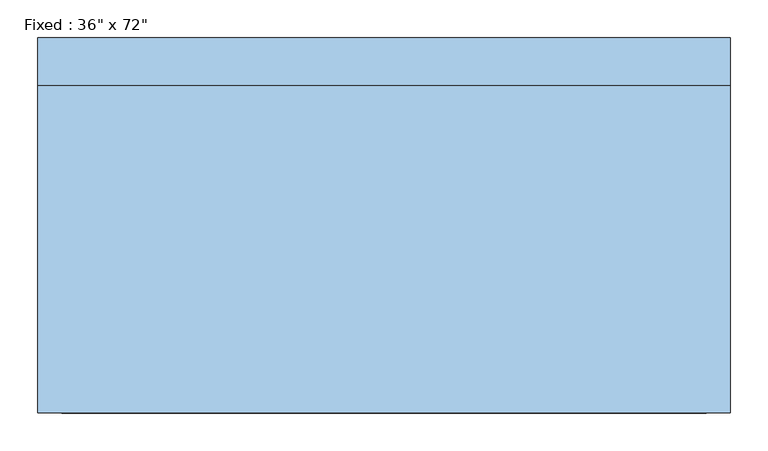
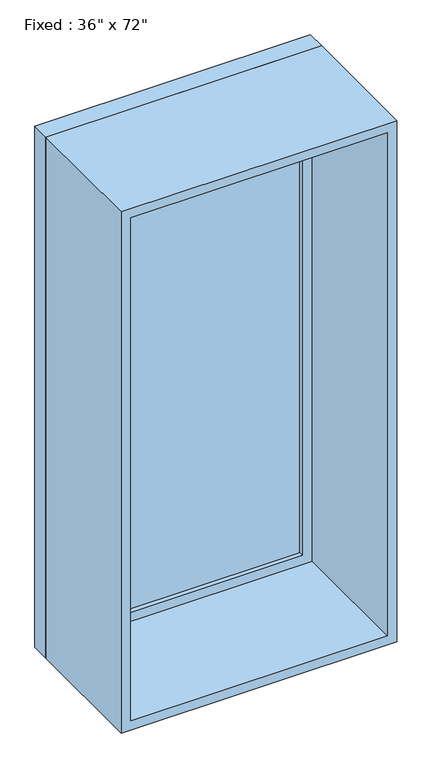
"""IFC4 building model written with IfcOpenShell, lengths in millimetres: window geometry."""

import ifcopenshell
import ifcopenshell.guid

model = None  # the IFC model being written
_history = None  # IfcOwnerHistory: only IFC2X3 demands one
_inside = {}  # id of a spatial element -> (the spatial element, [elements in it])
_under = {}  # id of a project, library or spatial element -> (it, [spatial elements below it])
_declared = {}  # id of a project -> (the project, [libraries it declares])
_typed = {}  # id of a type object -> (the type object, [elements of that type])
_made_of = {}  # id of a material, layer set ... -> (it, [elements and type objects made of it])


def new_model(schema):
    """Start an empty IFC model of exactly this schema.

    Asked for "IFC4X3", IfcOpenShell would pick the latest addendum, in which some entities
    have other attributes; the version numbers below select the first issue.
    IFC2X3 requires an IfcOwnerHistory on every rooted entity: one is made here for all.
    """
    global model, _history
    if schema == "IFC4X3":
        model = ifcopenshell.file(schema_version=(4, 3, 0, 0))
    else:
        model = ifcopenshell.file(schema=schema)
    _inside.clear()
    _under.clear()
    _declared.clear()
    _typed.clear()
    _made_of.clear()
    _history = None
    if model.schema == "IFC2X3":
        org = make("IfcOrganization", Name="unknown")
        user = make(
            "IfcPersonAndOrganization",
            ThePerson=make("IfcPerson", FamilyName="unknown"),
            TheOrganization=org,
        )
        app = make(
            "IfcApplication",
            ApplicationDeveloper=org,
            Version="unknown",
            ApplicationFullName="unknown",
            ApplicationIdentifier="unknown",
        )
        _history = make(
            "IfcOwnerHistory",
            OwningUser=user,
            OwningApplication=app,
            ChangeAction="ADDED",
            CreationDate=0,
        )
    return model


def make(cls, **values):
    """One entity of the class cls with the attributes given. An attribute that is None is left unset."""
    return model.create_entity(
        cls, **{name: value for name, value in values.items() if value is not None}
    )


def rooted(cls, **values):
    """An entity with a GlobalId (a new one), such as an element, a storey or a relation."""
    return make(cls, GlobalId=ifcopenshell.guid.new(), OwnerHistory=_history, **values)


def si_unit(unit_type, name, prefix=None):
    """IfcSIUnit, for example si_unit("LENGTHUNIT", "METRE", prefix="MILLI")."""
    return make("IfcSIUnit", UnitType=unit_type, Prefix=prefix, Name=name)


def assignment(units):
    """IfcUnitAssignment: the units of a project."""
    return None if units is None else make("IfcUnitAssignment", Units=units)


def point(xyz):
    """IfcCartesianPoint."""
    return None if xyz is None else make("IfcCartesianPoint", Coordinates=xyz)


def direction(xyz):
    """IfcDirection."""
    return None if xyz is None else make("IfcDirection", DirectionRatios=xyz)


def frame(location, z_axis=None, x_axis=None):
    """IfcAxis2Placement3D, a coordinate frame: its origin and axes. An axis left out is left unset."""
    return make(
        "IfcAxis2Placement3D",
        Location=point(location),
        Axis=direction(z_axis),
        RefDirection=direction(x_axis),
    )


def origin():
    """The frame at (0, 0, 0) with its axes left unset."""
    return frame((0.0, 0.0, 0.0))


def place(relative_to, where):
    """IfcLocalPlacement: puts the frame where relative to a parent placement (None: the world)."""
    return make(
        "IfcLocalPlacement", PlacementRelTo=relative_to, RelativePlacement=where
    )


def context(
    kind, dimensions, precision=None, world=None, true_north=None, identifier=None
):
    """IfcGeometricRepresentationContext, for example the 3D "Model" context."""
    return make(
        "IfcGeometricRepresentationContext",
        ContextIdentifier=identifier,
        ContextType=kind,
        CoordinateSpaceDimension=dimensions,
        Precision=precision,
        WorldCoordinateSystem=world,
        TrueNorth=true_north,
    )


def project(units=None, contexts=None):
    """IfcProject with its units and contexts."""
    return rooted(
        "IfcProject",
        Name="project",
        RepresentationContexts=contexts,
        UnitsInContext=assignment(units),
    )


def spatial(cls, under=None, at=None, **own):
    """A site, building, storey or space (cls), placed at a placement, below another one or the project."""
    s = rooted(cls, ObjectPlacement=at, **own)
    if under is not None:
        _under.setdefault(under.id(), (under, []))[1].append(s)
    return s


def polyline(points):
    """IfcPolyline through the points."""
    return make("IfcPolyline", Points=[point(p) for p in points])


def outline(outer, holes=None, kind="AREA"):
    """IfcArbitraryClosedProfileDef: a profile drawn as a closed curve; with holes, ...WithVoids."""
    if holes is None:
        return make("IfcArbitraryClosedProfileDef", ProfileType=kind, OuterCurve=outer)
    return make(
        "IfcArbitraryProfileDefWithVoids",
        ProfileType=kind,
        OuterCurve=outer,
        InnerCurves=holes,
    )


def extrude(swept, where, along, depth):
    """IfcExtrudedAreaSolid: the profile swept, set in the frame where, extruded along a direction by depth."""
    return make(
        "IfcExtrudedAreaSolid",
        SweptArea=swept,
        Position=where,
        ExtrudedDirection=direction(along),
        Depth=depth,
    )


def shape(context_of_items, identifier, shape_type, items):
    """IfcShapeRepresentation: the items that make up one representation, for example the "Body"."""
    return make(
        "IfcShapeRepresentation",
        ContextOfItems=context_of_items,
        RepresentationIdentifier=identifier,
        RepresentationType=shape_type,
        Items=items,
    )


def source(mapping_origin, context_of_items, identifier, shape_type, items):
    """IfcRepresentationMap: a shape defined once, which mapped items show again and again."""
    return make(
        "IfcRepresentationMap",
        MappingOrigin=mapping_origin,
        MappedRepresentation=shape(context_of_items, identifier, shape_type, items),
    )


def transform(
    local_origin,
    x_axis=None,
    y_axis=None,
    z_axis=None,
    scale=None,
    scale2=None,
    scale3=None,
    uniform=True,
):
    """IfcCartesianTransformationOperator3D, or its non-uniform kind. x_axis, y_axis, z_axis: its Axis1, 2, 3."""
    if uniform:
        return make(
            "IfcCartesianTransformationOperator3D",
            Axis1=direction(x_axis),
            Axis2=direction(y_axis),
            LocalOrigin=point(local_origin),
            Scale=scale,
            Axis3=direction(z_axis),
        )
    return make(
        "IfcCartesianTransformationOperator3DnonUniform",
        Axis1=direction(x_axis),
        Axis2=direction(y_axis),
        LocalOrigin=point(local_origin),
        Scale=scale,
        Axis3=direction(z_axis),
        Scale2=scale2,
        Scale3=scale3,
    )


def mapped(mapping_source, mapping_target):
    """IfcMappedItem: shows the shape of a source again, moved by a transform."""
    return make(
        "IfcMappedItem", MappingSource=mapping_source, MappingTarget=mapping_target
    )


def made_of(thing, what):
    """Note that an element or type object is made of a material, layer set ...; save() writes the relation."""
    if what is not None:
        _made_of.setdefault(what.id(), (what, []))[1].append(thing)
    return thing


def element(
    cls,
    number,
    at=None,
    inside=None,
    cuts=None,
    type_object=None,
    material=None,
    context=None,
    identifier="Body",
    shape_type=None,
    held_by="IfcProductDefinitionShape",
    body=None,
    shapes=None,
    **own,
):
    """One element of the class cls, such as IfcWall. Its Tag is "e" and its number.

    at: its placement. inside: the storey or other place that contains it. cuts: it is an
    opening in that element (IfcRelVoidsElement). A single representation is given by context,
    identifier, shape_type and body (its items); several are given by shapes. held_by: the class
    of the entity that holds the representations. save() writes the other relations.
    """
    e = rooted(cls, Tag="e%d" % number, ObjectPlacement=at, **own)
    if body is not None:
        shapes = [shape(context, identifier, shape_type, body)]
    if shapes is not None:
        e.Representation = make(held_by, Representations=shapes)
    if inside is not None:
        _inside.setdefault(inside.id(), (inside, []))[1].append(e)
    if cuts is not None:
        rooted(
            "IfcRelVoidsElement", RelatingBuildingElement=cuts, RelatedOpeningElement=e
        )
    if type_object is not None:
        _typed.setdefault(type_object.id(), (type_object, []))[1].append(e)
    return made_of(e, material)


def aggregate(whole, parts):
    """IfcRelAggregates: a whole, such as a stair, and the parts it consists of."""
    return rooted("IfcRelAggregates", RelatingObject=whole, RelatedObjects=parts)


def save(model, path):
    """Write the relations noted so far, then the file.

    IfcRelAggregates (storeys below a building ...), IfcRelContainedInSpatialStructure (elements
    in a storey), IfcRelDefinesByType, IfcRelAssociatesMaterial and IfcRelDeclares: one each for
    every whole, place, type object, material and project.
    """
    for whole, parts in _under.values():
        aggregate(whole, parts)
    for where, things in _inside.values():
        rooted(
            "IfcRelContainedInSpatialStructure",
            RelatedElements=things,
            RelatingStructure=where,
        )
    for kind, things in _typed.values():
        rooted("IfcRelDefinesByType", RelatedObjects=things, RelatingType=kind)
    for what, things in _made_of.values():
        rooted("IfcRelAssociatesMaterial", RelatedObjects=things, RelatingMaterial=what)
    for by, libraries in _declared.values():
        rooted("IfcRelDeclares", RelatingContext=by, RelatedDefinitions=libraries)
    model.write(path)


def window_ebccf9a6(model_context):
    return source(origin(), model_context, "Body", "SweptSolid", [
        extrude(outline(polyline([(355.6, 200.025), (-431.8, 200.025), (-431.8, 212.725), (355.6, 212.725), (355.6, 200.025)])), frame((0.0, 0.0, 368.3), z_axis=(0.0, 0.0, 1.0), x_axis=(1.0, 0.0, 0.0)), (0.0, 0.0, 1.0), 1701.8),
        extrude(outline(polyline([(2114.55, -476.25), (323.85, -476.25), (323.85, 400.05), (2114.55, 400.05), (2114.55, -476.25)]), holes=[polyline([(2070.1, -431.8), (2070.1, 355.6), (368.3, 355.6), (368.3, -431.8), (2070.1, -431.8)])]), frame((0.0, 184.15, 0.0), z_axis=(0.0, 1.0, 0.0), x_axis=(0.0, 0.0, 1.0)), (0.0, 0.0, 1.0), 44.45),
        extrude(outline(polyline([(2133.6, -495.3), (304.8, -495.3), (304.8, 419.1), (2133.6, 419.1), (2133.6, -495.3)]), holes=[polyline([(2101.85, -463.55), (2101.85, 387.35), (336.55, 387.35), (336.55, -463.55), (2101.85, -463.55)])]), frame((0.0, -247.65, 0.0), z_axis=(0.0, 1.0, 0.0), x_axis=(0.0, 0.0, 1.0)), (0.0, 0.0, 1.0), 431.8),
        extrude(outline(polyline([(2133.6, 419.1), (2133.6, -495.3), (304.8, -495.3), (304.8, 419.1), (2133.6, 419.1)]), holes=[polyline([(2114.55, 400.05), (323.85, 400.05), (323.85, -476.25), (2114.55, -476.25), (2114.55, 400.05)])]), frame((0.0, 184.15, 0.0), z_axis=(0.0, 1.0, 0.0), x_axis=(0.0, 0.0, 1.0)), (0.0, 0.0, 1.0), 63.5),
    ])


if __name__ == "__main__":
    model = new_model("IFC4")
    model_context = context("Model", 3, world=origin())
    ifc_project = project(units=[si_unit("LENGTHUNIT", "METRE", prefix="MILLI")], contexts=[model_context])
    site = spatial("IfcSite", under=ifc_project)
    building = spatial("IfcBuilding", under=site)
    placement = place(None, origin())
    window_shape = window_ebccf9a6(model_context)
    element("IfcWindow", 1, ObjectType="Fixed : 36\" x 72\"", at=placement, inside=building, context=model_context, shape_type="MappedRepresentation", body=[
        mapped(window_shape, transform((0.0, 0.0, 0.0), x_axis=(1.0, 0.0, 0.0), y_axis=(0.0, 1.0, 0.0), z_axis=(0.0, 0.0, 1.0))),
    ])
    save(model, "model.ifc")
